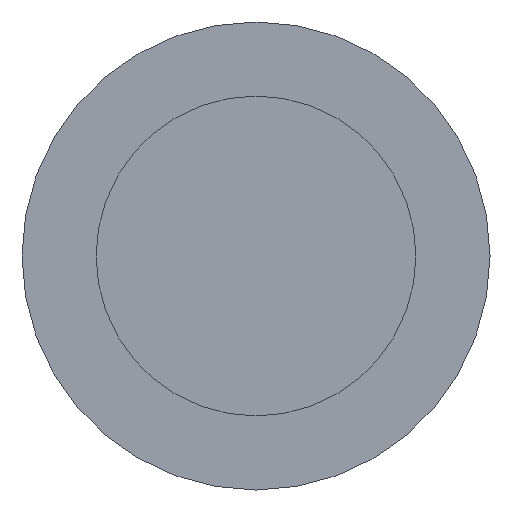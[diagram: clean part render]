
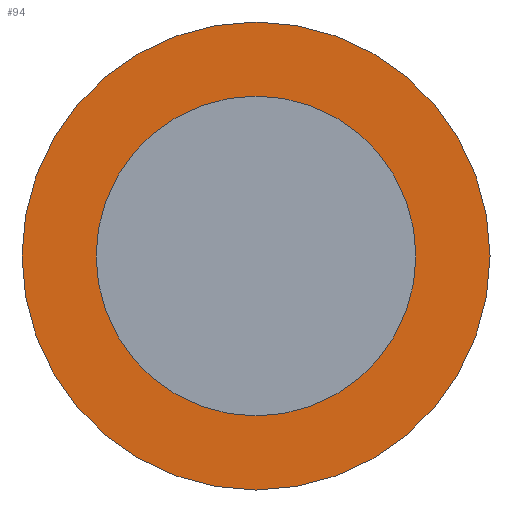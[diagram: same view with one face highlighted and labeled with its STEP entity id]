
A CAD part, front view. The second image highlights one B-rep face of the part: STEP entity #94.
In plain terms, the highlighted planar face has unit normal (0, -1, 0).
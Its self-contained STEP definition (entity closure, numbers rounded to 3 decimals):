
#87=FACE_BOUND('',#107,.T.);
#88=FACE_BOUND('',#108,.T.);
#94=ADVANCED_FACE('',(#87,#88),#98,.F.);
#98=PLANE('',#145);
#107=EDGE_LOOP('',(#117));
#108=EDGE_LOOP('',(#118));
#117=ORIENTED_EDGE('',*,*,#130,.T.);
#118=ORIENTED_EDGE('',*,*,#129,.F.);
#124=VERTEX_POINT('',#180);
#125=VERTEX_POINT('',#184);
#129=EDGE_CURVE('',#124,#124,#134,.T.);
#130=EDGE_CURVE('',#125,#125,#135,.T.);
#134=CIRCLE('',#141,3.);
#135=CIRCLE('',#144,2.05);
#141=AXIS2_PLACEMENT_3D('',#179,#157,#158);
#144=AXIS2_PLACEMENT_3D('',#183,#163,#164);
#145=AXIS2_PLACEMENT_3D('',#185,#165,#166);
#157=DIRECTION('',(0.,1.,0.));
#158=DIRECTION('',(-1.,0.,0.));
#163=DIRECTION('',(0.,1.,0.));
#164=DIRECTION('',(0.,0.,1.));
#165=DIRECTION('',(0.,1.,0.));
#166=DIRECTION('',(1.,0.,0.));
#179=CARTESIAN_POINT('',(0.,-40.,0.));
#180=CARTESIAN_POINT('',(-3.,-40.,0.));
#183=CARTESIAN_POINT('',(0.,-40.,0.));
#184=CARTESIAN_POINT('',(0.,-40.,2.05));
#185=CARTESIAN_POINT('',(0.,-40.,0.));
